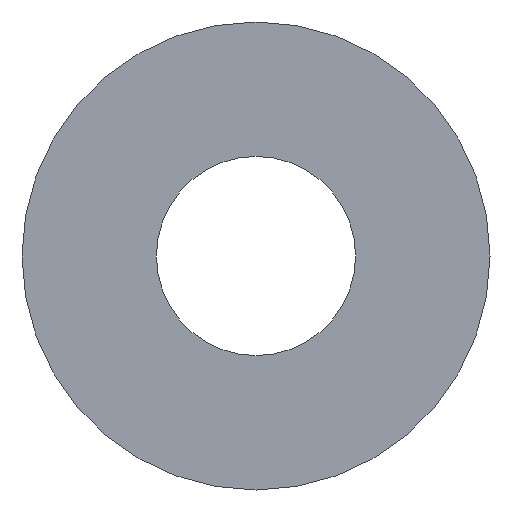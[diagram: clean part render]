
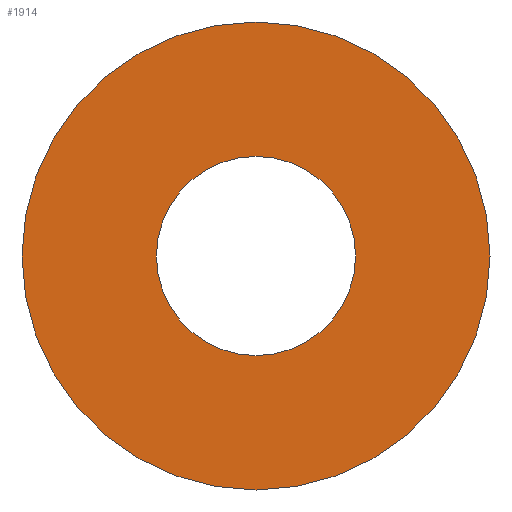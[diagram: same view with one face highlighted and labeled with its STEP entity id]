
A CAD part, front view. The second image highlights one B-rep face of the part: STEP entity #1914.
In plain terms, the highlighted planar face has unit normal (0, -1, 0).
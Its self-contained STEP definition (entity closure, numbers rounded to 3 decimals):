
#50 = VERTEX_POINT ( 'NONE', #472 ) ;
#126 = CARTESIAN_POINT ( 'NONE',  ( 0., -15.5, 0. ) ) ;
#202 = EDGE_LOOP ( 'NONE', ( #2421, #1734 ) ) ;
#472 = CARTESIAN_POINT ( 'NONE',  ( 0., -15.5, 10. ) ) ;
#514 = CARTESIAN_POINT ( 'NONE',  ( 0., -15.5, 0. ) ) ;
#538 = AXIS2_PLACEMENT_3D ( 'NONE', #514, #1722, #539 ) ;
#539 = DIRECTION ( 'NONE',  ( 0., 0., -1. ) ) ;
#573 = CARTESIAN_POINT ( 'NONE',  ( 0., -15.5, 10. ) ) ;
#965 = CARTESIAN_POINT ( 'NONE',  ( 0., -15.5, 0. ) ) ;
#1018 = VERTEX_POINT ( 'NONE', #1090 ) ;
#1045 = AXIS2_PLACEMENT_3D ( 'NONE', #573, #1996, #2210 ) ;
#1090 = CARTESIAN_POINT ( 'NONE',  ( 0., -15.5, -23.5 ) ) ;
#1133 = FACE_OUTER_BOUND ( 'NONE', #1999, .T. ) ;
#1154 = ORIENTED_EDGE ( 'NONE', *, *, #2234, .T. ) ;
#1155 = DIRECTION ( 'NONE',  ( 0., 0., -1. ) ) ;
#1161 = CARTESIAN_POINT ( 'NONE',  ( 0., -15.5, 0. ) ) ;
#1193 = EDGE_CURVE ( 'NONE', #2555, #1018, #2278, .T. ) ;
#1255 = AXIS2_PLACEMENT_3D ( 'NONE', #126, #1815, #2237 ) ;
#1439 = CARTESIAN_POINT ( 'NONE',  ( 0., -15.5, 23.5 ) ) ;
#1537 = DIRECTION ( 'NONE',  ( 0., -1., 0. ) ) ;
#1592 = PLANE ( 'NONE',  #1045 ) ;
#1634 = FACE_BOUND ( 'NONE', #202, .T. ) ;
#1722 = DIRECTION ( 'NONE',  ( 0., -1., 0. ) ) ;
#1734 = ORIENTED_EDGE ( 'NONE', *, *, #2359, .F. ) ;
#1749 = DIRECTION ( 'NONE',  ( 0., 0., -1. ) ) ;
#1815 = DIRECTION ( 'NONE',  ( 0., -1., 0. ) ) ;
#1823 = DIRECTION ( 'NONE',  ( 0., -1., 0. ) ) ;
#1829 = CIRCLE ( 'NONE', #1255, 10. ) ;
#1914 = ADVANCED_FACE ( 'NONE', ( #1634, #1133 ), #1592, .F. ) ;
#1996 = DIRECTION ( 'NONE',  ( 0., 1., 0. ) ) ;
#1999 = EDGE_LOOP ( 'NONE', ( #1154, #2203 ) ) ;
#2057 = CIRCLE ( 'NONE', #538, 23.5 ) ;
#2133 = VERTEX_POINT ( 'NONE', #2311 ) ;
#2203 = ORIENTED_EDGE ( 'NONE', *, *, #1193, .T. ) ;
#2210 = DIRECTION ( 'NONE',  ( 0., 0., 1. ) ) ;
#2234 = EDGE_CURVE ( 'NONE', #1018, #2555, #2057, .T. ) ;
#2237 = DIRECTION ( 'NONE',  ( 0., 0., -1. ) ) ;
#2278 = CIRCLE ( 'NONE', #2432, 23.5 ) ;
#2311 = CARTESIAN_POINT ( 'NONE',  ( 0., -15.5, -10. ) ) ;
#2323 = AXIS2_PLACEMENT_3D ( 'NONE', #965, #1823, #1155 ) ;
#2359 = EDGE_CURVE ( 'NONE', #50, #2133, #1829, .T. ) ;
#2398 = EDGE_CURVE ( 'NONE', #2133, #50, #2478, .T. ) ;
#2421 = ORIENTED_EDGE ( 'NONE', *, *, #2398, .F. ) ;
#2432 = AXIS2_PLACEMENT_3D ( 'NONE', #1161, #1537, #1749 ) ;
#2478 = CIRCLE ( 'NONE', #2323, 10. ) ;
#2555 = VERTEX_POINT ( 'NONE', #1439 ) ;
